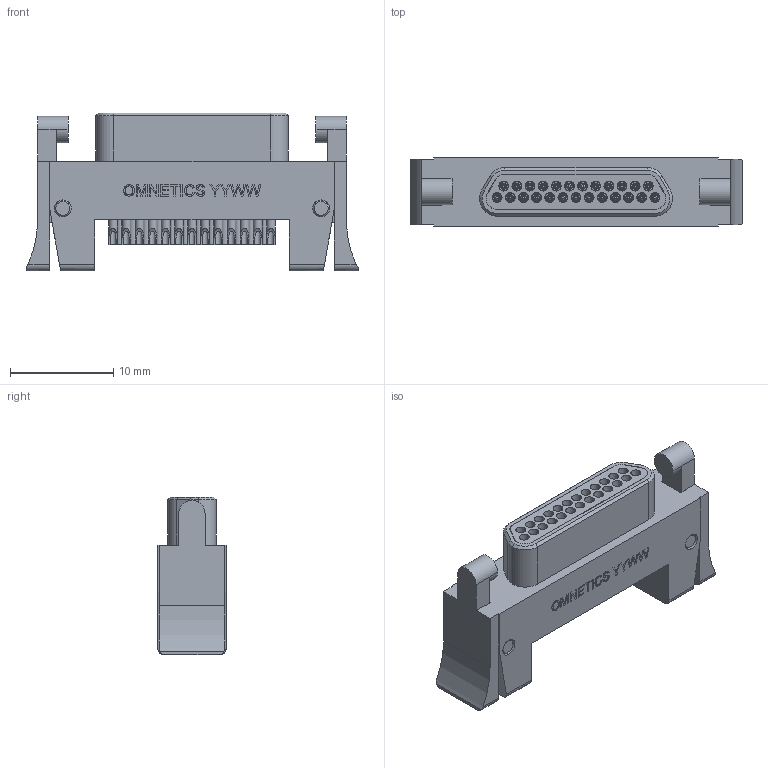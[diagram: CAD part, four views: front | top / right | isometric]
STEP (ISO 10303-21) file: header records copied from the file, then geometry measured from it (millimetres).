
FILE_DESCRIPTION (( 'STEP AP214' ), '1' );
FILE_NAME ('A98027-025 REV C.STEP', '2013-07-25T13:51:45', ( '' ), ( '' ), 'SwSTEP 2.0', 'SolidWorks 2012', '' );
FILE_SCHEMA (( 'AUTOMOTIVE_DESIGN' ));
Length unit declared in the file: inch
Products named in the file (1): A98027-025 REV B
Bounding box: 32.08 x 6.62 x 15.27 mm (x, y, z)
Volume: 1702.8 mm3; surface area: 3036.7 mm2
Topology: 1 solids, 1 shells, 998 faces, 2284 edges, 1372 vertices
Faces by surface type: cylinder 422, plane 309, cone 163, bspline 54, torus 50
Entity records: 31328 total; most frequent: CARTESIAN_POINT 8835, DIRECTION 4865, ORIENTED_EDGE 4456, EDGE_CURVE 2228, AXIS2_PLACEMENT_3D 1857, VERTEX_POINT 1372, LINE 1151, VECTOR 1151
